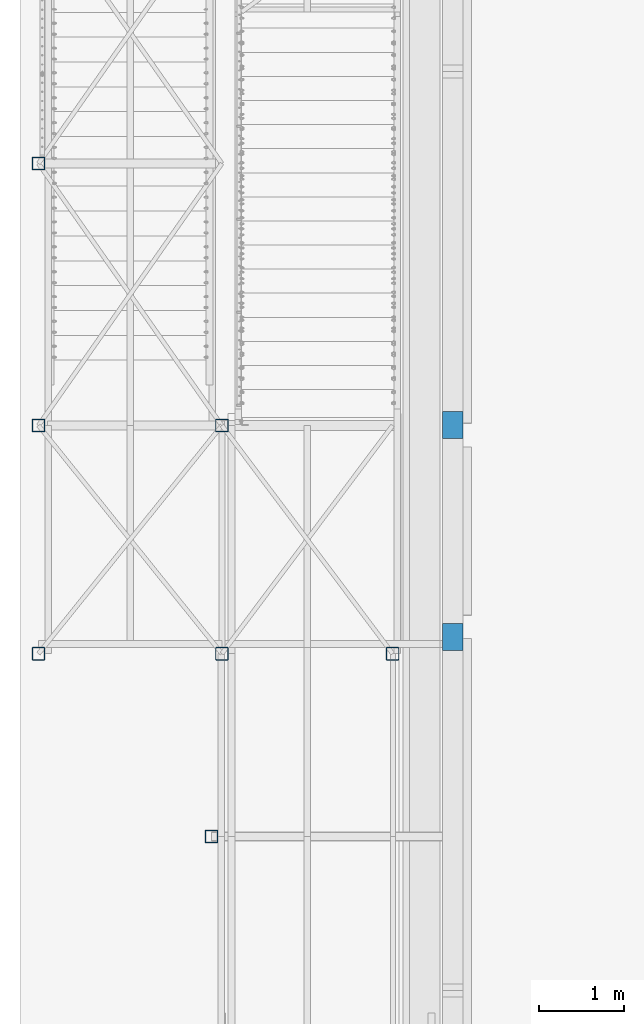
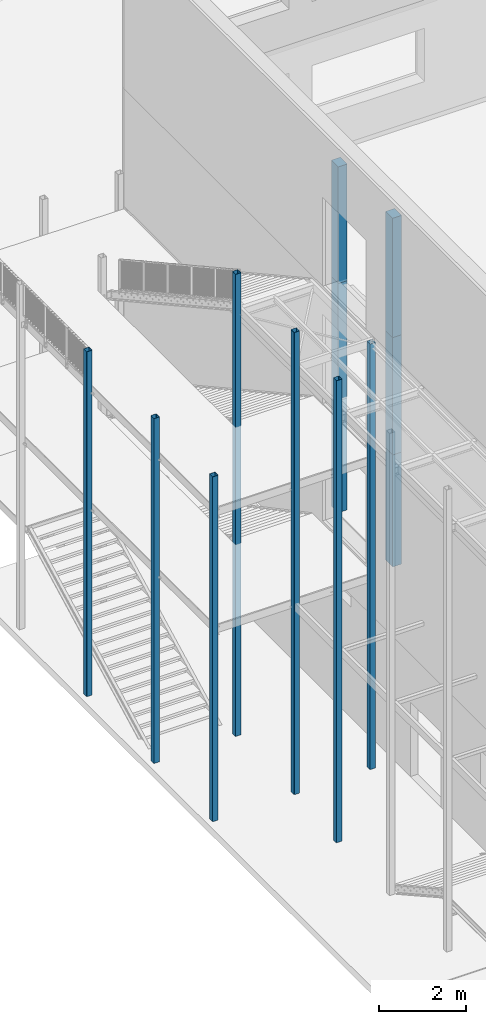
# One storey, part 5 of 78: 13 columns, 13 elements without a shape of their own.
"""IFC2X3 building model written with IfcOpenShell, lengths in millimetres."""

from ifc_helpers import new_model, si_unit, frame, origin_with_axes, origin_2d_with_axis, place, context, subcontext, project, spatial, rectangle, hollow_rectangle, extrude, material, type_object, element, aggregate, save


model = new_model("IFC2X3")

# Units and contexts
model_context = context("Model", 3, precision=1e-05, world=origin_with_axes())
body_context = subcontext(model_context, "Body", "Model", "MODEL_VIEW")
ifc_project = project(units=[si_unit("LENGTHUNIT", "METRE", prefix="MILLI"), si_unit("AREAUNIT", "SQUARE_METRE"), si_unit("VOLUMEUNIT", "CUBIC_METRE"), si_unit("MASSUNIT", "GRAM", prefix="KILO"), si_unit("TIMEUNIT", "SECOND"), si_unit("PLANEANGLEUNIT", "RADIAN"), si_unit("SOLIDANGLEUNIT", "STERADIAN"), si_unit("THERMODYNAMICTEMPERATUREUNIT", "DEGREE_CELSIUS"), si_unit("LUMINOUSINTENSITYUNIT", "LUMEN")], contexts=[model_context])

# Site, building, storey
site_placement = place(None, origin_with_axes())
site = spatial("IfcSite", under=ifc_project, at=site_placement, Name="Site", CompositionType="ELEMENT")
building_placement = place(site_placement, origin_with_axes())
building = spatial("IfcBuilding", under=site, at=building_placement, Name="Undefined", CompositionType="ELEMENT")
storey_placement = place(building_placement, origin_with_axes())
storey = spatial("IfcBuildingStorey", under=building, at=storey_placement, Name="Undefined", CompositionType="ELEMENT", Elevation=0.0)

# Assembly, column
assembly_1_placement = place(storey_placement, origin_with_axes())
assembly_1 = element("IfcElementAssembly", 1, at=assembly_1_placement, inside=storey, Name="POTEAU", AssemblyPlace="NOTDEFINED", PredefinedType="RIGID_FRAME")
ifc_material_1 = material(Name="STEEL/S275JR")
column_type_1 = type_object("IfcColumnType", Name="TUBE-C-150*150*5", PredefinedType="NOTDEFINED")
column_1_placement = place(assembly_1_placement, frame((-33338.43, -955.0, 148000.04), z_axis=(0.0, 0.0, 1.0), x_axis=(0.0, 1.0, 0.0)))
column_1 = element("IfcColumn", 2, at=column_1_placement, type_object=column_type_1, material=ifc_material_1, Name="POTEAU", ObjectType="TUBE-C-150*150*5", context=body_context, shape_type="SweptSolid", body=[
    extrude(hollow_rectangle(XDim=150.0, YDim=150.0, WallThickness=5.0, InnerFilletRadius=5.0, OuterFilletRadius=10.0, at=origin_2d_with_axis()), frame((0.0, 0.0, 13000.0), z_axis=(0.0, 0.0, -1.0), x_axis=(0.0, 1.0, 0.0)), (0.0, 0.0, 1.0), 13000.0),
])
aggregate(assembly_1, [column_1])

assembly_2_placement = place(storey_placement, origin_with_axes())
assembly_2 = element("IfcElementAssembly", 3, at=assembly_2_placement, inside=storey, Name="POTEAU", AssemblyPlace="NOTDEFINED", PredefinedType="RIGID_FRAME")
column_2_placement = place(assembly_2_placement, frame((-31196.43, 1208.0, 148000.04), z_axis=(0.0, 0.0, 1.0), x_axis=(0.0, 1.0, 0.0)))
column_2 = element("IfcColumn", 4, at=column_2_placement, type_object=column_type_1, material=ifc_material_1, Name="POTEAU", ObjectType="TUBE-C-150*150*5", context=body_context, shape_type="SweptSolid", body=[
    extrude(hollow_rectangle(XDim=150.0, YDim=150.0, WallThickness=5.0, InnerFilletRadius=5.0, OuterFilletRadius=10.0, at=origin_2d_with_axis()), frame((0.0, 0.0, 11970.0), z_axis=(0.0, 0.0, -1.0), x_axis=(0.0, 1.0, 0.0)), (0.0, 0.0, 1.0), 11970.0),
])
aggregate(assembly_2, [column_2])

assembly_3_placement = place(storey_placement, origin_with_axes())
assembly_3 = element("IfcElementAssembly", 5, at=assembly_3_placement, inside=storey, Name="POTEAU", AssemblyPlace="NOTDEFINED", PredefinedType="RIGID_FRAME")
column_3_placement = place(assembly_3_placement, frame((-33216.43, 1208.0, 148000.04), z_axis=(0.0, 0.0, 1.0), x_axis=(0.0, 1.0, 0.0)))
column_3 = element("IfcColumn", 6, at=column_3_placement, type_object=column_type_1, material=ifc_material_1, Name="POTEAU", ObjectType="TUBE-C-150*150*5", context=body_context, shape_type="SweptSolid", body=[
    extrude(hollow_rectangle(XDim=150.0, YDim=150.0, WallThickness=5.0, InnerFilletRadius=5.0, OuterFilletRadius=10.0, at=origin_2d_with_axis()), frame((0.0, 0.0, 13000.0), z_axis=(0.0, 0.0, -1.0), x_axis=(0.0, 1.0, 0.0)), (0.0, 0.0, 1.0), 13000.0),
])
aggregate(assembly_3, [column_3])

assembly_4_placement = place(storey_placement, origin_with_axes())
assembly_4 = element("IfcElementAssembly", 7, at=assembly_4_placement, inside=storey, Name="POTEAU", AssemblyPlace="NOTDEFINED", PredefinedType="RIGID_FRAME")
column_4_placement = place(assembly_4_placement, frame((-33216.43, 3908.0, 148000.04), z_axis=(0.0, 0.0, 1.0), x_axis=(0.0, 1.0, 0.0)))
column_4 = element("IfcColumn", 8, at=column_4_placement, type_object=column_type_1, material=ifc_material_1, Name="POTEAU", ObjectType="TUBE-C-150*150*5", context=body_context, shape_type="SweptSolid", body=[
    extrude(hollow_rectangle(XDim=150.0, YDim=150.0, WallThickness=5.0, InnerFilletRadius=5.0, OuterFilletRadius=10.0, at=origin_2d_with_axis()), frame((0.0, 0.0, 13000.0), z_axis=(0.0, 0.0, -1.0), x_axis=(0.0, 1.0, 0.0)), (0.0, 0.0, 1.0), 13000.0),
])
aggregate(assembly_4, [column_4])

assembly_5_placement = place(storey_placement, origin_with_axes())
assembly_5 = element("IfcElementAssembly", 9, at=assembly_5_placement, inside=storey, Name="POTEAU", AssemblyPlace="NOTDEFINED", PredefinedType="RIGID_FRAME")
column_5_placement = place(assembly_5_placement, frame((-35386.43, 1208.0, 148000.04), z_axis=(0.0, 0.0, 1.0), x_axis=(0.0, 1.0, 0.0)))
column_5 = element("IfcColumn", 10, at=column_5_placement, type_object=column_type_1, material=ifc_material_1, Name="POTEAU", ObjectType="TUBE-C-150*150*5", context=body_context, shape_type="SweptSolid", body=[
    extrude(hollow_rectangle(XDim=150.0, YDim=150.0, WallThickness=5.0, InnerFilletRadius=5.0, OuterFilletRadius=10.0, at=origin_2d_with_axis()), frame((0.0, 0.0, 9699.99999979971), z_axis=(0.0, 0.0, -1.0), x_axis=(0.0, 1.0, 0.0)), (0.0, 0.0, 1.0), 9700.0),
])
aggregate(assembly_5, [column_5])

assembly_6_placement = place(storey_placement, origin_with_axes())
assembly_6 = element("IfcElementAssembly", 11, at=assembly_6_placement, inside=storey, Name="POTEAU", AssemblyPlace="NOTDEFINED", PredefinedType="RIGID_FRAME")
column_6_placement = place(assembly_6_placement, frame((-35386.43, 3908.0, 148000.04), z_axis=(0.0, 0.0, 1.0), x_axis=(0.0, 1.0, 0.0)))
column_6 = element("IfcColumn", 12, at=column_6_placement, type_object=column_type_1, material=ifc_material_1, Name="POTEAU", ObjectType="TUBE-C-150*150*5", context=body_context, shape_type="SweptSolid", body=[
    extrude(hollow_rectangle(XDim=150.0, YDim=150.0, WallThickness=5.0, InnerFilletRadius=5.0, OuterFilletRadius=10.0, at=origin_2d_with_axis()), frame((0.0, 0.0, 9699.99999979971), z_axis=(0.0, 0.0, -1.0), x_axis=(0.0, 1.0, 0.0)), (0.0, 0.0, 1.0), 9700.0),
])
aggregate(assembly_6, [column_6])

assembly_7_placement = place(storey_placement, origin_with_axes())
assembly_7 = element("IfcElementAssembly", 13, at=assembly_7_placement, inside=storey, Name="POTEAU", AssemblyPlace="NOTDEFINED", PredefinedType="RIGID_FRAME")
column_7_placement = place(assembly_7_placement, frame((-35386.43, 7008.0, 148000.04), z_axis=(0.0, 0.0, 1.0), x_axis=(0.0, 1.0, 0.0)))
column_7 = element("IfcColumn", 14, at=column_7_placement, type_object=column_type_1, material=ifc_material_1, Name="POTEAU", ObjectType="TUBE-C-150*150*5", context=body_context, shape_type="SweptSolid", body=[
    extrude(hollow_rectangle(XDim=150.0, YDim=150.0, WallThickness=5.0, InnerFilletRadius=5.0, OuterFilletRadius=10.0, at=origin_2d_with_axis()), frame((0.0, 0.0, 9699.99999979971), z_axis=(0.0, 0.0, -1.0), x_axis=(0.0, 1.0, 0.0)), (0.0, 0.0, 1.0), 9700.0),
])
aggregate(assembly_7, [column_7])

assembly_8_placement = place(storey_placement, origin_with_axes())
assembly_8 = element("IfcElementAssembly", 15, at=assembly_8_placement, inside=storey, Name="POUTRE", AssemblyPlace="NOTDEFINED", PredefinedType="NOTDEFINED")
ifc_material_2 = material(Name="TIMBER/CHENE")
column_type_2 = type_object("IfcColumnType", Name="240*320", PredefinedType="NOTDEFINED")
column_8_placement = place(assembly_8_placement, frame((-30483.4327932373, 3914.99886201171, 159850.037954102), z_axis=(0.0, 0.0, 1.0), x_axis=(-1.0, 0.0, 0.0)))
column_8 = element("IfcColumn", 16, at=column_8_placement, type_object=column_type_2, material=ifc_material_2, Name="POUTRE", ObjectType="240*320", context=body_context, shape_type="SweptSolid", body=[
    extrude(rectangle(XDim=320.0, YDim=240.0, at=origin_2d_with_axis()), frame((0.0, 0.0, 3279.9938964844), z_axis=(0.0, 0.0, -1.0), x_axis=(0.0, 1.0, 0.0)), (0.0, 0.0, 1.0), 3279.99),
])
aggregate(assembly_8, [column_8])

assembly_9_placement = place(storey_placement, origin_with_axes())
assembly_9 = element("IfcElementAssembly", 17, at=assembly_9_placement, inside=storey, Name="POUTRE", AssemblyPlace="NOTDEFINED", PredefinedType="NOTDEFINED")
column_9_placement = place(assembly_9_placement, frame((-30483.4327932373, 1405.00054047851, 159850.037954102), z_axis=(0.0, 0.0, 1.0), x_axis=(-1.0, 0.0, 0.0)))
column_9 = element("IfcColumn", 18, at=column_9_placement, type_object=column_type_2, material=ifc_material_2, Name="POUTRE", ObjectType="240*320", context=body_context, shape_type="SweptSolid", body=[
    extrude(rectangle(XDim=320.0, YDim=240.0, at=origin_2d_with_axis()), frame((0.0, 0.0, 3360.00389648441), z_axis=(0.0, 0.0, -1.0), x_axis=(0.0, 1.0, 0.0)), (0.0, 0.0, 1.0), 3360.0),
])
aggregate(assembly_9, [column_9])

assembly_10_placement = place(storey_placement, origin_with_axes())
assembly_10 = element("IfcElementAssembly", 19, at=assembly_10_placement, inside=storey, Name="POUTRE", AssemblyPlace="NOTDEFINED", PredefinedType="NOTDEFINED")
column_10_placement = place(assembly_10_placement, frame((-30483.4327932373, 3914.99886201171, 156550.034057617), z_axis=(0.0, 0.0, 1.0), x_axis=(-1.0, 0.0, 0.0)))
column_10 = element("IfcColumn", 20, at=column_10_placement, type_object=column_type_2, material=ifc_material_2, Name="POUTRE", ObjectType="240*320", context=body_context, shape_type="SweptSolid", body=[
    extrude(rectangle(XDim=320.0, YDim=240.0, at=origin_2d_with_axis()), frame((0.0, 0.0, 3300.0038964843), z_axis=(0.0, 0.0, -1.0), x_axis=(0.0, 1.0, 0.0)), (0.0, 0.0, 1.0), 3300.0),
])
aggregate(assembly_10, [column_10])

assembly_11_placement = place(storey_placement, origin_with_axes())
assembly_11 = element("IfcElementAssembly", 21, at=assembly_11_placement, inside=storey, Name="POUTRE", AssemblyPlace="NOTDEFINED", PredefinedType="NOTDEFINED")
column_11_placement = place(assembly_11_placement, frame((-30483.4327932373, 1405.00054047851, 156550.034057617), z_axis=(0.0, 0.0, 1.0), x_axis=(-1.0, 0.0, 0.0)))
column_11 = element("IfcColumn", 22, at=column_11_placement, type_object=column_type_2, material=ifc_material_2, Name="POUTRE", ObjectType="240*320", context=body_context, shape_type="SweptSolid", body=[
    extrude(rectangle(XDim=320.0, YDim=240.0, at=origin_2d_with_axis()), frame((0.0, 0.0, 3300.0038964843), z_axis=(0.0, 0.0, -1.0), x_axis=(0.0, 1.0, 0.0)), (0.0, 0.0, 1.0), 3300.0),
])
aggregate(assembly_11, [column_11])

assembly_12_placement = place(storey_placement, origin_with_axes())
assembly_12 = element("IfcElementAssembly", 23, at=assembly_12_placement, inside=storey, Name="POUTRE", AssemblyPlace="NOTDEFINED", PredefinedType="NOTDEFINED")
column_12_placement = place(assembly_12_placement, frame((-30483.4327932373, 3914.99886201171, 153400.040161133), z_axis=(0.0, 0.0, 1.0), x_axis=(-1.0, 0.0, 0.0)))
column_12 = element("IfcColumn", 24, at=column_12_placement, type_object=column_type_2, material=ifc_material_2, Name="POUTRE", ObjectType="240*320", context=body_context, shape_type="SweptSolid", body=[
    extrude(rectangle(XDim=320.0, YDim=240.0, at=origin_2d_with_axis()), frame((0.0, 0.0, 3149.99389648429), z_axis=(0.0, 0.0, -1.0), x_axis=(0.0, 1.0, 0.0)), (0.0, 0.0, 1.0), 3149.99),
])
aggregate(assembly_12, [column_12])

assembly_13_placement = place(storey_placement, origin_with_axes())
assembly_13 = element("IfcElementAssembly", 25, at=assembly_13_placement, inside=storey, Name="POUTRE", AssemblyPlace="NOTDEFINED", PredefinedType="NOTDEFINED")
column_13_placement = place(assembly_13_placement, frame((-30483.4327932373, 1405.00054047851, 153400.040161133), z_axis=(0.0, 0.0, 1.0), x_axis=(-1.0, 0.0, 0.0)))
column_13 = element("IfcColumn", 26, at=column_13_placement, type_object=column_type_2, material=ifc_material_2, Name="POUTRE", ObjectType="240*320", context=body_context, shape_type="SweptSolid", body=[
    extrude(rectangle(XDim=320.0, YDim=240.0, at=origin_2d_with_axis()), frame((0.0, 0.0, 3149.99389648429), z_axis=(0.0, 0.0, -1.0), x_axis=(0.0, 1.0, 0.0)), (0.0, 0.0, 1.0), 3149.99),
])
aggregate(assembly_13, [column_13])

save(model, "model.ifc")
